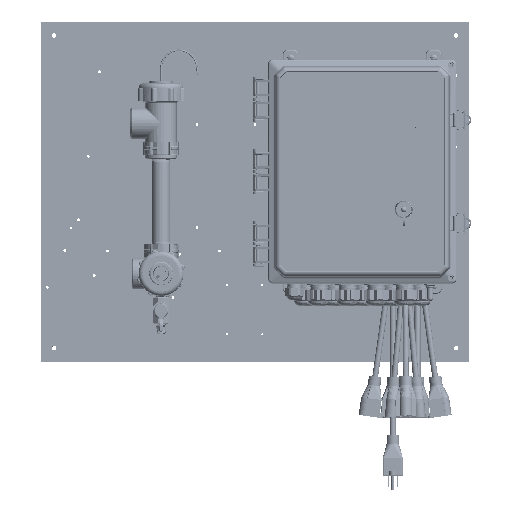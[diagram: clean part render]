
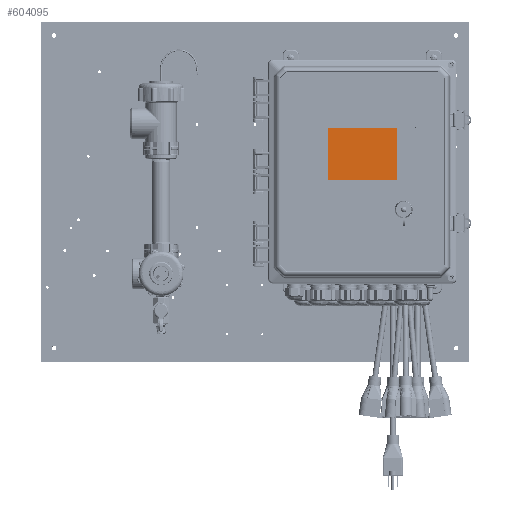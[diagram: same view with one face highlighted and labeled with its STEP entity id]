
A CAD part, top view. The second image highlights one B-rep face of the part: STEP entity #604095.
In plain terms, the highlighted planar face has unit normal (0, 0, 1) as drawn and (0, 0.819, -0.574) by its records, which use the part's own axes.
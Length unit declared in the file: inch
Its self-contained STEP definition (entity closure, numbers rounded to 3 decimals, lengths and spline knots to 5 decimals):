
#24088 = VECTOR ( 'NONE', #543080, 39.37008 ) ;
#25906 = CARTESIAN_POINT ( 'NONE',  ( -3.75195, 5.06542, 1.8349 ) ) ;
#29440 = DIRECTION ( 'NONE',  ( -1., 0., 0. ) ) ;
#59177 = LINE ( 'NONE', #492807, #567920 ) ;
#81215 = LINE ( 'NONE', #338877, #388345 ) ;
#111584 = PLANE ( 'NONE',  #328634 ) ;
#251447 = EDGE_CURVE ( 'NONE', #465198, #512526, #81215, .T. ) ;
#267802 = EDGE_CURVE ( 'NONE', #512526, #358959, #517264, .T. ) ;
#282985 = DIRECTION ( 'NONE',  ( 1., 0., 0. ) ) ;
#283022 = EDGE_CURVE ( 'NONE', #354001, #465198, #558168, .T. ) ;
#302338 = EDGE_CURVE ( 'NONE', #358959, #354001, #59177, .T. ) ;
#310826 = ORIENTED_EDGE ( 'NONE', *, *, #267802, .T. ) ;
#313906 = CARTESIAN_POINT ( 'NONE',  ( -0.83809, 7.27913, 4.9955 ) ) ;
#323095 = EDGE_LOOP ( 'NONE', ( #310826, #666890, #417160, #513616 ) ) ;
#328634 = AXIS2_PLACEMENT_3D ( 'NONE', #524870, #581317, #588049 ) ;
#338877 = CARTESIAN_POINT ( 'NONE',  ( -3.75195, 5.06542, 1.8349 ) ) ;
#354001 = VERTEX_POINT ( 'NONE', #313906 ) ;
#358959 = VERTEX_POINT ( 'NONE', #541809 ) ;
#388345 = VECTOR ( 'NONE', #29440, 39.37008 ) ;
#417160 = ORIENTED_EDGE ( 'NONE', *, *, #283022, .T. ) ;
#461316 = CARTESIAN_POINT ( 'NONE',  ( -0.83809, 5.06542, 1.8349 ) ) ;
#465198 = VERTEX_POINT ( 'NONE', #609175 ) ;
#492807 = CARTESIAN_POINT ( 'NONE',  ( -3.75195, 7.27913, 4.9955 ) ) ;
#502176 = CARTESIAN_POINT ( 'NONE',  ( -3.75195, 5.06542, 1.8349 ) ) ;
#512526 = VERTEX_POINT ( 'NONE', #502176 ) ;
#513616 = ORIENTED_EDGE ( 'NONE', *, *, #251447, .T. ) ;
#517264 = LINE ( 'NONE', #25906, #24088 ) ;
#524870 = CARTESIAN_POINT ( 'NONE',  ( 0., 2.53611, -1.77631 ) ) ;
#541809 = CARTESIAN_POINT ( 'NONE',  ( -3.75195, 7.27913, 4.9955 ) ) ;
#543080 = DIRECTION ( 'NONE',  ( 0., 0.574, 0.819 ) ) ;
#558168 = LINE ( 'NONE', #461316, #614608 ) ;
#567920 = VECTOR ( 'NONE', #282985, 39.37008 ) ;
#581317 = DIRECTION ( 'NONE',  ( 0., 0.819, -0.574 ) ) ;
#588049 = DIRECTION ( 'NONE',  ( 0., 0.574, 0.819 ) ) ;
#597041 = FACE_OUTER_BOUND ( 'NONE', #323095, .T. ) ;
#604095 = ADVANCED_FACE ( 'NONE', ( #597041 ), #111584, .T. ) ;
#609175 = CARTESIAN_POINT ( 'NONE',  ( -0.83809, 5.06542, 1.8349 ) ) ;
#612829 = DIRECTION ( 'NONE',  ( 0., -0.574, -0.819 ) ) ;
#614608 = VECTOR ( 'NONE', #612829, 39.37008 ) ;
#666890 = ORIENTED_EDGE ( 'NONE', *, *, #302338, .T. ) ;
